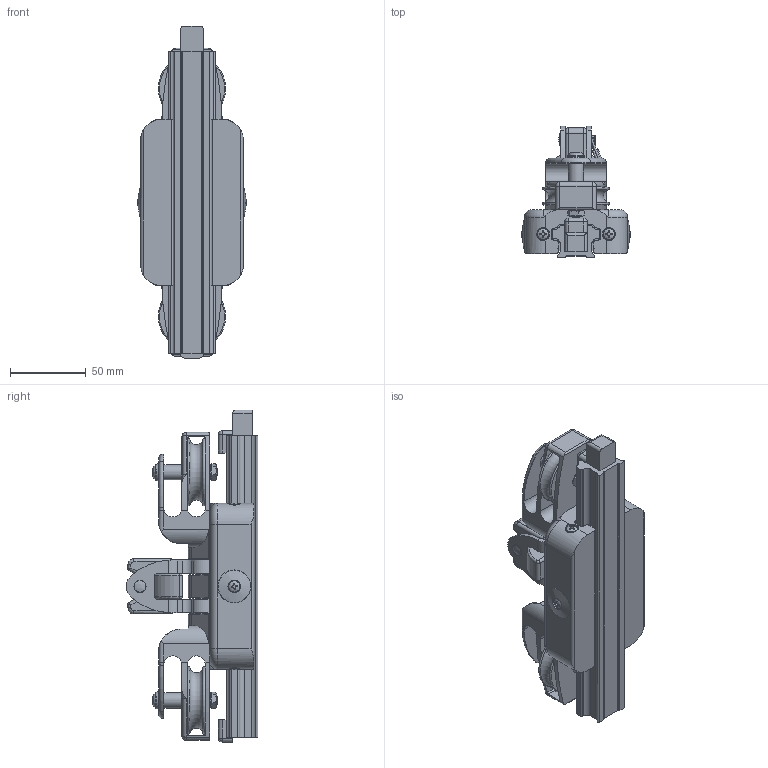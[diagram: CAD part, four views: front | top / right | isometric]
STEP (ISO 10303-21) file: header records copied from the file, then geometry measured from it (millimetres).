
FILE_DESCRIPTION(/* description */ (''),/* implementation_level */ '2;1');
FILE_NAME(/* name */ 'D:\Utenti\lucade\Desktop\4113.stp',/* time_stamp */ '2020-08-06T14:51:39+02:00',/* author */ ('lucade'),/* organization */ (''),/* preprocessor_version */ 'ST-DEVELOPER v18.1',/* originating_system */ 'Autodesk Inventor 2021',/* authorisation */ '');
FILE_SCHEMA (('AUTOMOTIVE_DESIGN { 1 0 10303 214 3 1 1 }'));
Length unit declared in the file: millimetre
Products named in the file (1): 4113
Bounding box: 71.95 x 87.05 x 219.8 mm (x, y, z)
Volume: 408915.6 mm3; surface area: 93947 mm2
Topology: 2 solids, 10 shells, 1018 faces, 2631 edges, 1662 vertices
Faces by surface type: plane 389, cylinder 331, torus 106, bspline 67, sphere 63, cone 62
Full cylindrical faces by diameter (mm): 2.5 x1, 3.5 x2, 3.6 x2, 5 x4, 5.1 x2, 6 x3, 6.2 x2, 6.8 x2, 8 x1, 8.2 x3, 8.4 x4, 8.5 x6, 10 x6, 10.5 x12, 11.7 x6, 17 x4, 28 x2
Entity records: 35151 total; most frequent: CARTESIAN_POINT 10382, DIRECTION 5305, ORIENTED_EDGE 5212, EDGE_CURVE 2606, AXIS2_PLACEMENT_3D 2129, VERTEX_POINT 1662, EDGE_LOOP 1139, CIRCLE 1095
